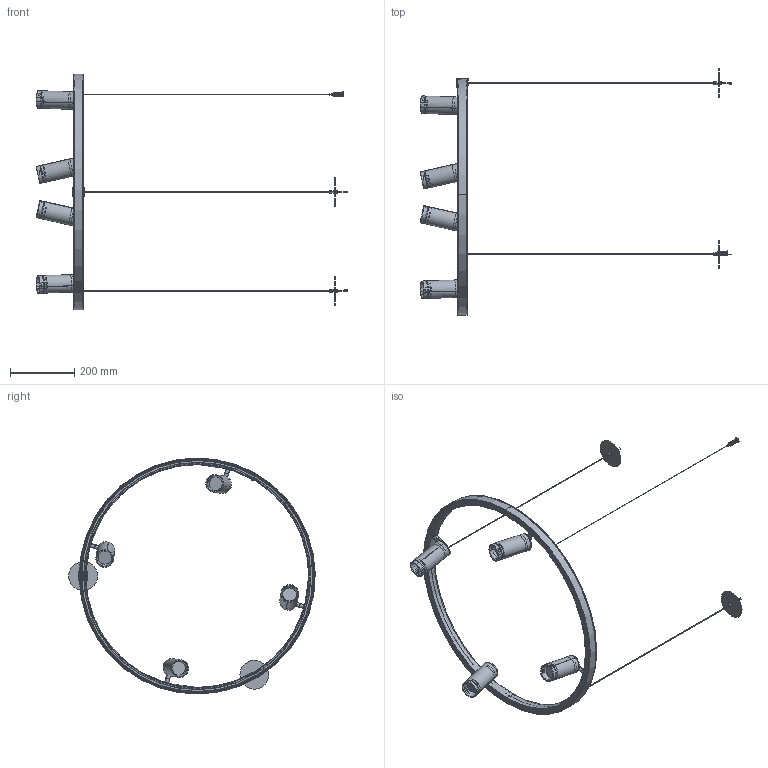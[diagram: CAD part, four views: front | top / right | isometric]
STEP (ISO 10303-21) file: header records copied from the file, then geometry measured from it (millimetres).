
FILE_DESCRIPTION (( 'STEP AP214' ), '1' );
FILE_NAME ('Space55_Ø700.STEP', '2024-05-30T10:31:38', ( '' ), ( '' ), 'SwSTEP 2.0', 'SolidWorks 2024', '' );
FILE_SCHEMA (( 'AUTOMOTIVE_DESIGN' ));
Length unit declared in the file: millimetre
Products named in the file (1): Space55_Ø700
Bounding box: 973.67 x 770.14 x 737.28 mm (x, y, z)
Volume: 805939.6 mm3; surface area: 837807.7 mm2
Topology: 17 solids, 19 shells, 2962 faces, 7420 edges, 4483 vertices
Faces by surface type: plane 1078, cylinder 835, cone 558, torus 223, bspline 196, sphere 72
Entity records: 111117 total; most frequent: CARTESIAN_POINT 41527, ORIENTED_EDGE 14776, DIRECTION 14509, EDGE_CURVE 7388, AXIS2_PLACEMENT_3D 5618, VERTEX_POINT 4483, EDGE_LOOP 3277, VECTOR 3273
